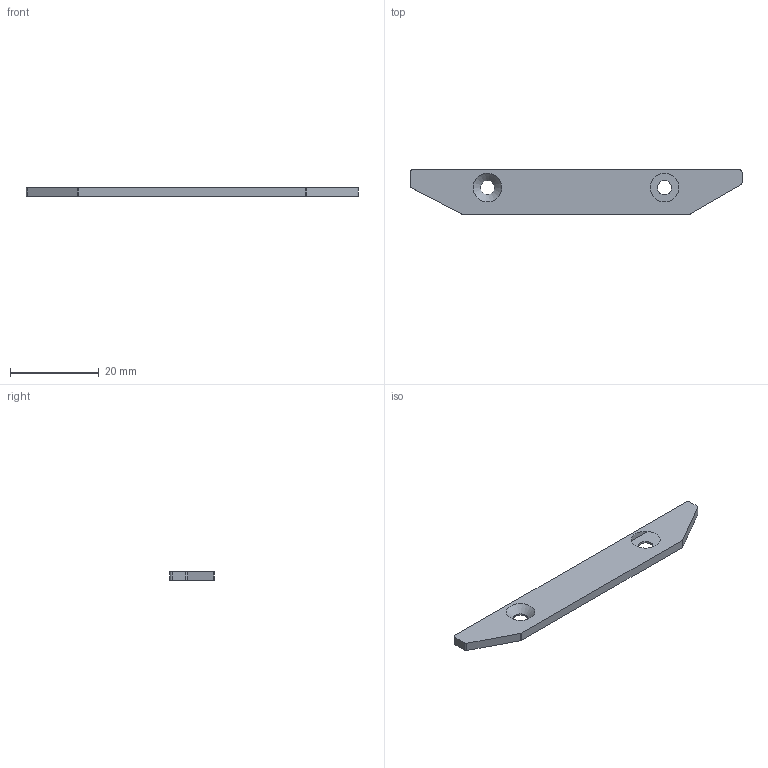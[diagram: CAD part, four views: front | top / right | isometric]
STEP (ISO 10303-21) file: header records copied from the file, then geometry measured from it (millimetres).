
FILE_DESCRIPTION(/* description */ ('Linear Guide'),/* implementation_level */ '2;1');
FILE_NAME(/* name */ 'Z:\Werkstatt Server\Projekte\Atlas\Entwicklung u. Konstruktion\Konstruktion\CAD Daten\ITkPixToolV2.0\Stencil Tool\ITPTv2.03.00.03.stp',/* time_stamp */ '2021-08-06T14:10:17+02:00',/* author */ ('Tim Kanngießer'),/* organization */ (''),/* preprocessor_version */ 'ST-DEVELOPER v18.1',/* originating_system */ 'Autodesk Inventor 2022',/* authorisation */ '');
FILE_SCHEMA (('AUTOMOTIVE_DESIGN { 1 0 10303 214 3 1 1 }'));
Length unit declared in the file: millimetre
Products named in the file (1): ITPTv2.03.00.03
Bounding box: 75 x 10 x 2 mm (x, y, z)
Volume: 1280.8 mm3; surface area: 1665.3 mm2
Topology: 1 solids, 1 shells, 18 faces, 46 edges, 30 vertices
Faces by surface type: cylinder 8, plane 8, cone 2
Full cylindrical faces by diameter (mm): 3.2 x2
Entity records: 601 total; most frequent: DIRECTION 102, CARTESIAN_POINT 95, ORIENTED_EDGE 92, EDGE_CURVE 46, AXIS2_PLACEMENT_3D 37, VERTEX_POINT 30, LINE 28, VECTOR 28
